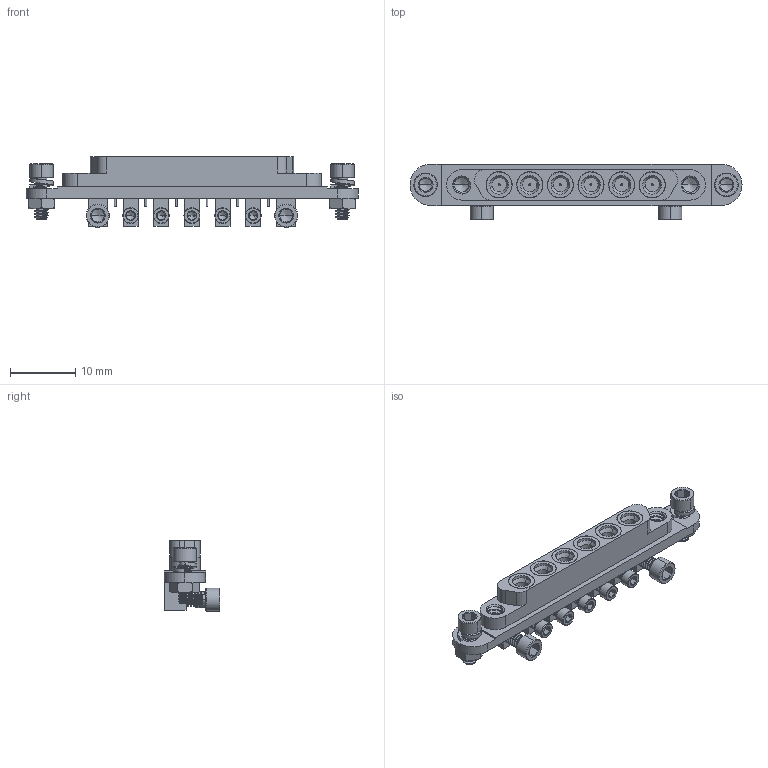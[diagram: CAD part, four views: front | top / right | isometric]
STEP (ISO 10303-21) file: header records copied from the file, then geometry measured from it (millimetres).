
FILE_DESCRIPTION (( 'STEP AP203' ), '1' );
FILE_NAME ('8869000G91P-099.STEP', '2023-11-08T18:22:57', ( '' ), ( '' ), 'SwSTEP 2.0', 'SolidWorks 2022', '' );
FILE_SCHEMA (( 'CONFIG_CONTROL_DESIGN' ));
Products named in the file (1): 8869000G91P-099
Bounding box: 50.93 x 8.53 x 10.79 mm (x, y, z)
Volume: 1599.8 mm3; surface area: 2885.6 mm2
Topology: 14 solids, 14 shells, 1418 faces, 3512 edges, 2220 vertices
Faces by surface type: plane 465, cylinder 435, bspline 290, cone 216, torus 12
Entity records: 74166 total; most frequent: CARTESIAN_POINT 44266, ORIENTED_EDGE 6980, DIRECTION 5014, EDGE_CURVE 3490, VERTEX_POINT 2220, AXIS2_PLACEMENT_3D 1731, EDGE_LOOP 1554, VECTOR 1552
